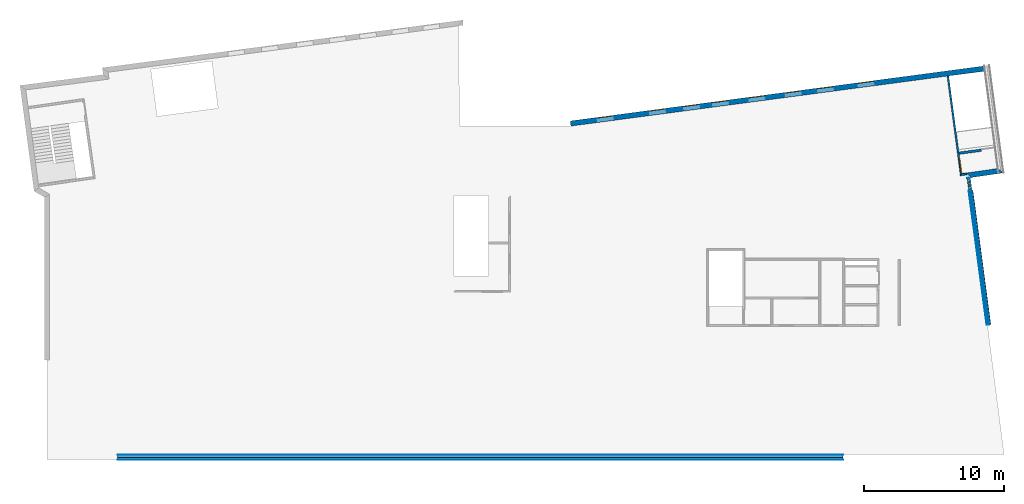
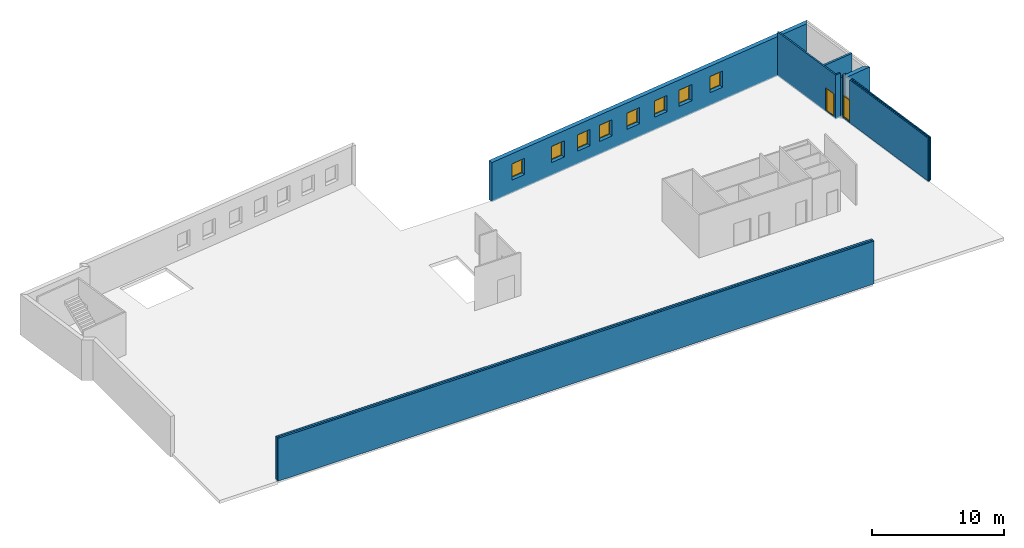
# One storey, part 5 of 9: 9 building element parts, 9 windows, 5 walls, 1 door, 12 openings, 2 elements without a shape of their own.
"""IFC2X3 building model written with IfcOpenShell, lengths in metres."""

from ifc_helpers import new_model, entity, si_unit, converted_unit, money_unit, direction, frame, origin_with_axes, origin_2d_with_axis, place, context, subcontext, project, spatial, polyline, rectangle, outline, extrude, clip, halfspace, faceted_brep, source, transform, mapped, material, material_list, layer, layer_set, layer_usage, type_object, element, fill, aggregate, save


model = new_model("IFC2X3")

# Units and contexts
model_context = context("Model", 3, precision=1e-05, world=origin_with_axes(), true_north=direction((0.0, 1.0)))
body_context = subcontext(model_context, "Body", "Model", "MODEL_VIEW")
ifc_project = project(units=[si_unit("LENGTHUNIT", "METRE"), si_unit("AREAUNIT", "SQUARE_METRE"), si_unit("VOLUMEUNIT", "CUBIC_METRE"), converted_unit("PLANEANGLEUNIT", "DEGREE", entity("IfcPlaneAngleMeasure", 0.0174532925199), si_unit("PLANEANGLEUNIT", "RADIAN"), dimensions=[0, 0, 0, 0, 0, 0, 0]), si_unit("SOLIDANGLEUNIT", "STERADIAN"), money_unit("EUR"), converted_unit("TIMEUNIT", "Year", entity("IfcTimeMeasure", 31556926.0), si_unit("TIMEUNIT", "SECOND"), dimensions=[0, 0, 0, 0, 0, 0, 0]), si_unit("MASSUNIT", "GRAM"), si_unit("THERMODYNAMICTEMPERATUREUNIT", "DEGREE_CELSIUS"), si_unit("LUMINOUSINTENSITYUNIT", "LUMEN")], contexts=[model_context])

# Site, building, storey
site_placement = place(None, origin_with_axes())
site = spatial("IfcSite", under=ifc_project, at=site_placement, Name="Undefined", CompositionType="ELEMENT")
building_placement = place(site_placement, origin_with_axes())
building = spatial("IfcBuilding", under=site, at=building_placement, Name="Undefined", CompositionType="ELEMENT")
storey_placement = place(building_placement, frame((0.0, 0.0, 13.45), z_axis=(0.0, 0.0, 1.0), x_axis=(1.0, 0.0, 0.0)))
storey = spatial("IfcBuildingStorey", under=building, at=storey_placement, Name="R+2", CompositionType="ELEMENT", Elevation=13.45)

# Wall
ifc_material_1 = material(Name="Finition int - Enduit pl\x89tre")
ifc_layer_1 = layer(ifc_material_1, 0.015, ventilated="UNKNOWN")
ifc_material_2 = material(Name="Struct. - Parpaing b\x8eton")
ifc_layer_2 = layer(ifc_material_2, 0.1, ventilated="UNKNOWN")
ifc_layer_3 = layer(ifc_material_1, 0.015, ventilated="UNKNOWN")
ifc_layer_set_1 = layer_set([ifc_layer_1, ifc_layer_2, ifc_layer_3], Name="0.0-Cloison: parpaing + pl\x89tre 2 faces copie")
ifc_layer_usage_1 = layer_usage(ifc_layer_set_1, "AXIS2", "POSITIVE", 0.0)
wall_type_1 = type_object("IfcWallType", Name="0.0-Cloison: parpaing + pl\x89tre 2 faces copie 130", PredefinedType="NOTDEFINED")
wall_1_placement = place(storey_placement, frame((65.689318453, 20.184397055, -0.120000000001), z_axis=(0.0, 0.0, 1.0), x_axis=(-0.990155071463, -0.139974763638, 0.0)))
element("IfcWallStandardCase", 1, at=wall_1_placement, inside=storey, type_object=wall_type_1, material=ifc_layer_usage_1, Name="Wall_Int_02", context=body_context, shape_type="SweptSolid", body=[
    extrude(outline(polyline([(0.0, 0.0), (0.332315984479, 0.0), (0.463315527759, 0.13), (0.0, 0.13), (0.0, 0.0)])), origin_with_axes(), (0.0, 0.0, 1.0), 4.07),
])

# Wall, opening, door
ifc_layer_usage_2 = layer_usage(ifc_layer_set_1, "AXIS2", "POSITIVE", 0.0)
wall_2_placement = place(storey_placement, frame((65.3602740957, 20.1378812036, -0.120000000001), z_axis=(0.0, 0.0, 1.0), x_axis=(-0.132386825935, 0.991198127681, 0.0)))
wall_2 = element("IfcWallStandardCase", 2, at=wall_2_placement, inside=storey, type_object=wall_type_1, material=ifc_layer_usage_2, Name="Wall_Int_02", context=body_context, shape_type="SweptSolid", body=[
    extrude(outline(polyline([(0.0, 0.0), (7.06627215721, 0.0), (7.06635857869, 0.13), (-0.13099954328, 0.13), (0.0, 0.0)])), origin_with_axes(), (0.0, 0.0, 1.0), 4.07),
])
opening_1_placement = place(wall_2_placement, frame((0.602413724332, 0.0, 0.12), z_axis=(0.0, 0.0, 1.0), x_axis=(1.0, 0.0, 0.0)))
opening_1 = element("IfcOpeningElement", 3, at=opening_1_placement, cuts=wall_2, Name="DOOR_1000", context=body_context, shape_type="SweptSolid", body=[
    extrude(rectangle(XDim=1.0, YDim=2.1, at=origin_2d_with_axis()), frame((0.0, -0.13, 1.05), z_axis=(0.0, 1.0, 0.0), x_axis=(1.0, 0.0, 0.0)), (0.0, 0.0, 1.0), 0.13),
    extrude(rectangle(XDim=1.0, YDim=2.1, at=origin_2d_with_axis()), frame((0.0, 0.13, 1.05), z_axis=(0.0, -1.0, 0.0), x_axis=(1.0, 0.0, 0.0)), (0.0, 0.0, 1.0), 0.13),
])
ifc_material_3 = material(Name="Background Fill-International")
ifc_material_4 = material(Name="Air Space")
ifc_material_list_1 = material_list([ifc_material_3, ifc_material_4])
door_style = type_object("IfcDoorStyle", Name="IFC Porte - Simple battant", ConstructionType="NOTDEFINED", OperationType="SINGLE_SWING_RIGHT", ParameterTakesPrecedence=True, Sizeable=False)
shared_shape_1 = source(origin_with_axes(), body_context, "Body", "Brep", [
    faceted_brep([(-0.5, 0.0, 0.0), (-0.45, 0.0, 0.0), (-0.45, -0.1, 0.0), (-0.5, -0.1, 0.0), (-0.5, 0.0, 2.1), (0.5, 0.0, 2.1), (0.5, 0.0, 0.0), (0.45, 0.0, 0.0), (0.45, 0.0, 2.05), (-0.45, 0.0, 2.05), (-0.45, -0.1, 2.05), (0.45, -0.1, 2.05), (0.45, -0.1, 0.0), (0.5, -0.1, 0.0), (0.5, -0.1, 2.1), (-0.5, -0.1, 2.1)], [[[0, 1, 2, 3]], [[0, 4, 5, 6, 7, 8, 9, 1]], [[1, 9, 10, 2]], [[3, 2, 10, 11, 12, 13, 14, 15]], [[4, 0, 3, 15]], [[5, 4, 15, 14]], [[6, 5, 14, 13]], [[7, 6, 13, 12]], [[8, 7, 12, 11]], [[9, 8, 11, 10]]]),
    faceted_brep([(0.45, 0.0, 0.0), (0.45, 0.0, 2.05), (0.45, -0.04, 2.05), (0.45, -0.04, 0.0), (-0.45, 0.0, 0.0), (-0.45, 0.0, 2.05), (-0.45, -0.04, 2.05), (-0.45, -0.04, 0.0)], [[[0, 1, 2, 3]], [[0, 4, 5, 1]], [[1, 5, 6, 2]], [[3, 2, 6, 7]], [[4, 0, 3, 7]], [[5, 4, 7, 6]]]),
])
door_placement = place(opening_1_placement, frame((0.5, 0.0, 0.0), z_axis=(0.0, 0.0, 1.0), x_axis=(-1.0, 0.0, 0.0)))
door = element("IfcDoor", 4, at=door_placement, inside=storey, type_object=door_style, material=ifc_material_list_1, Name="DOOR_1000", ObjectType="DOOR", OverallHeight=2.1, OverallWidth=1.0, context=body_context, shape_type="MappedRepresentation", body=[
    mapped(shared_shape_1, transform((0.5, 0.0, 0.0))),
])
fill(opening_1, door)

# Wall, openings, windows
ifc_material_5 = material(Name="Finition ext - Cr\x8epis")
ifc_layer_4 = layer(ifc_material_5, 0.015, ventilated="UNKNOWN")
ifc_material_6 = material(Name="Isolation - Fibres de bois")
ifc_layer_5 = layer(ifc_material_6, 0.16, ventilated="UNKNOWN")
ifc_material_7 = material(Name="Struct. - B.A. banch\x8e")
ifc_layer_6 = layer(ifc_material_7, 0.18, ventilated="UNKNOWN")
ifc_layer_7 = layer(ifc_material_1, 0.015, ventilated="UNKNOWN")
ifc_layer_set_2 = layer_set([ifc_layer_4, ifc_layer_5, ifc_layer_6, ifc_layer_7], Name="1.2-Mur ext: rev\x8et ext + isol ext + ma\x8donnerie + enduit")
ifc_layer_usage_3 = layer_usage(ifc_layer_set_2, "AXIS2", "POSITIVE", 0.0)
wall_type_2 = type_object("IfcWallType", Name="1.2-Mur ext: rev\x8et ext + isol ext + ma\x8donnerie + enduit 370", PredefinedType="NOTDEFINED")
wall_3_placement = place(storey_placement, frame((67.3302558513, 27.9013044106, -0.12), z_axis=(0.0, 0.0, 1.0), x_axis=(-0.991285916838, -0.131727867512, 0.0)))
wall_3 = element("IfcWallStandardCase", 5, at=wall_3_placement, inside=storey, type_object=wall_type_2, material=ifc_layer_usage_3, Name="WallEx02", ObjectType="WALL", context=body_context, shape_type="SweptSolid", body=[
    extrude(outline(polyline([(0.0, 0.0), (30.2929706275, 0.0), (30.2929706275, 0.37), (0.370166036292, 0.37), (0.0, 0.0)])), origin_with_axes(), (0.0, 0.0, 1.0), 3.63),
])
opening_2_placement = place(wall_3_placement, frame((27.7984641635, 0.0, 1.2), z_axis=(0.0, 0.0, 1.0), x_axis=(1.0, 0.0, 0.0)))
opening_2 = element("IfcOpeningElement", 6, at=opening_2_placement, cuts=wall_3, Name="Window_1200", context=body_context, shape_type="SweptSolid", body=[
    extrude(rectangle(XDim=1.2, YDim=1.5, at=origin_2d_with_axis()), frame((0.0, 0.37, 0.75), z_axis=(0.0, 1.0, 0.0), x_axis=(-1.0, 0.0, 0.0)), (0.0, 0.0, -1.0), 1.11),
])
opening_3_placement = place(wall_3_placement, frame((24.0211044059, 0.0, 1.2), z_axis=(0.0, 0.0, 1.0), x_axis=(1.0, 0.0, 0.0)))
opening_3 = element("IfcOpeningElement", 7, at=opening_3_placement, cuts=wall_3, Name="Window_1200", context=body_context, shape_type="SweptSolid", body=[
    extrude(rectangle(XDim=1.2, YDim=1.5, at=origin_2d_with_axis()), frame((0.0, 0.37, 0.75), z_axis=(0.0, 1.0, 0.0), x_axis=(-1.0, 0.0, 0.0)), (0.0, 0.0, -1.0), 1.11),
])
opening_4_placement = place(wall_3_placement, frame((21.5546740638, 0.0, 1.2), z_axis=(0.0, 0.0, 1.0), x_axis=(1.0, 0.0, 0.0)))
opening_4 = element("IfcOpeningElement", 8, at=opening_4_placement, cuts=wall_3, Name="Window_1200", context=body_context, shape_type="SweptSolid", body=[
    extrude(rectangle(XDim=1.2, YDim=1.5, at=origin_2d_with_axis()), frame((0.0, 0.37, 0.75), z_axis=(0.0, 1.0, 0.0), x_axis=(-1.0, 0.0, 0.0)), (0.0, 0.0, -1.0), 1.11),
])
opening_5_placement = place(wall_3_placement, frame((19.4637907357, 0.0, 1.2), z_axis=(0.0, 0.0, 1.0), x_axis=(1.0, 0.0, 0.0)))
opening_5 = element("IfcOpeningElement", 9, at=opening_5_placement, cuts=wall_3, Name="Window_1200", context=body_context, shape_type="SweptSolid", body=[
    extrude(rectangle(XDim=1.2, YDim=1.5, at=origin_2d_with_axis()), frame((0.0, 0.37, 0.75), z_axis=(0.0, 1.0, 0.0), x_axis=(-1.0, 0.0, 0.0)), (0.0, 0.0, -1.0), 1.11),
])
opening_6_placement = place(wall_3_placement, frame((16.8379134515, 0.0, 1.2), z_axis=(0.0, 0.0, 1.0), x_axis=(1.0, 0.0, 0.0)))
opening_6 = element("IfcOpeningElement", 10, at=opening_6_placement, cuts=wall_3, Name="Window_1200", context=body_context, shape_type="SweptSolid", body=[
    extrude(rectangle(XDim=1.2, YDim=1.5, at=origin_2d_with_axis()), frame((0.0, 0.37, 0.75), z_axis=(0.0, 1.0, 0.0), x_axis=(-1.0, 0.0, 0.0)), (0.0, 0.0, -1.0), 1.11),
])
opening_7_placement = place(wall_3_placement, frame((14.2120361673, 0.0, 1.2), z_axis=(0.0, 0.0, 1.0), x_axis=(1.0, 0.0, 0.0)))
opening_7 = element("IfcOpeningElement", 11, at=opening_7_placement, cuts=wall_3, Name="Window_1200", context=body_context, shape_type="SweptSolid", body=[
    extrude(rectangle(XDim=1.2, YDim=1.5, at=origin_2d_with_axis()), frame((0.0, 0.37, 0.75), z_axis=(0.0, 1.0, 0.0), x_axis=(-1.0, 0.0, 0.0)), (0.0, 0.0, -1.0), 1.11),
])
opening_8_placement = place(wall_3_placement, frame((11.8722940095, 0.0, 1.2), z_axis=(0.0, 0.0, 1.0), x_axis=(1.0, 0.0, 0.0)))
opening_8 = element("IfcOpeningElement", 12, at=opening_8_placement, cuts=wall_3, Name="Window_1200", context=body_context, shape_type="SweptSolid", body=[
    extrude(rectangle(XDim=1.2, YDim=1.5, at=origin_2d_with_axis()), frame((0.0, 0.37, 0.75), z_axis=(0.0, 1.0, 0.0), x_axis=(-1.0, 0.0, 0.0)), (0.0, 0.0, -1.0), 1.11),
])
opening_9_placement = place(wall_3_placement, frame((8.94888426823, 0.0, 1.2), z_axis=(0.0, 0.0, 1.0), x_axis=(1.0, 0.0, 0.0)))
opening_9 = element("IfcOpeningElement", 13, at=opening_9_placement, cuts=wall_3, Name="Window_1200", context=body_context, shape_type="SweptSolid", body=[
    extrude(rectangle(XDim=1.2, YDim=1.5, at=origin_2d_with_axis()), frame((0.0, 0.37, 0.75), z_axis=(0.0, 1.0, 0.0), x_axis=(-1.0, 0.0, 0.0)), (0.0, 0.0, -1.0), 1.11),
])
ifc_material_8 = material(Name="07 | Insulation Rigid")
ifc_material_list_2 = material_list([ifc_material_3, ifc_material_4, ifc_material_3, ifc_material_3, ifc_material_3, ifc_material_8, ifc_material_3, ifc_material_3, ifc_material_3, ifc_material_3, ifc_material_4, ifc_material_3, ifc_material_3])
window_style_1 = type_object("IfcWindowStyle", Name="Fen\x90tre 18", ConstructionType="NOTDEFINED", OperationType="DOUBLE_PANEL_HORIZONTAL", ParameterTakesPrecedence=False, Sizeable=False)
shared_shape_2 = source(origin_with_axes(), body_context, "Body", "Brep", [
    faceted_brep([(0.55, -0.05, 1.1), (0.55, -0.05, 1.2), (0.55, 0.0, 1.2), (0.55, 0.0, 1.1), (0.55, -0.05, 0.05), (0.6, -0.05, 0.0), (0.6, -0.05, 1.5), (0.55, -0.05, 1.45), (0.55, 0.0, 1.45), (0.6, 0.0, 1.5), (0.6, 0.0, 0.0), (0.55, 0.0, 0.05)], [[[0, 1, 2, 3]], [[0, 4, 5, 6, 7, 1]], [[1, 7, 8, 2]], [[3, 2, 8, 9, 10, 11]], [[4, 0, 3, 11]], [[5, 4, 11, 10]], [[6, 5, 10, 9]], [[7, 6, 9, 8]]]),
    faceted_brep([(-0.55, -0.05, 0.05), (-0.6, -0.05, 0.0), (-0.6, 0.0, 0.0), (-0.55, 0.0, 0.05), (-0.55, -0.05, 1.1), (-0.55, -0.05, 1.2), (-0.55, -0.05, 1.45), (-0.6, -0.05, 1.5), (-0.6, 0.0, 1.5), (-0.55, 0.0, 1.45), (-0.55, 0.0, 1.2), (-0.55, 0.0, 1.1)], [[[0, 1, 2, 3]], [[0, 4, 5, 6, 7, 1]], [[1, 7, 8, 2]], [[3, 2, 8, 9, 10, 11]], [[4, 0, 3, 11]], [[5, 4, 11, 10]], [[6, 5, 10, 9]], [[7, 6, 9, 8]]]),
    faceted_brep([(0.55, -0.05, 1.2), (0.55, -0.05, 1.1), (0.55, 0.0, 1.1), (0.55, 0.0, 1.2), (-0.55, -0.05, 1.2), (-0.55, -0.05, 1.1), (-0.55, 0.0, 1.1), (-0.55, 0.0, 1.2)], [[[0, 1, 2, 3]], [[0, 4, 5, 1]], [[1, 5, 6, 2]], [[3, 2, 6, 7]], [[4, 0, 3, 7]], [[5, 4, 7, 6]]]),
    faceted_brep([(0.55, -0.05, 0.05), (0.6, -0.05, 0.0), (0.6, 0.0, 0.0), (0.55, 0.0, 0.05), (-0.55, -0.05, 0.05), (-0.6, -0.05, 0.0), (-0.6, 0.0, 0.0), (-0.55, 0.0, 0.05)], [[[0, 1, 2, 3]], [[0, 4, 5, 1]], [[1, 5, 6, 2]], [[3, 2, 6, 7]], [[4, 0, 3, 7]], [[5, 4, 7, 6]]]),
    faceted_brep([(-0.55, -0.05, 1.45), (-0.6, -0.05, 1.5), (-0.6, 0.0, 1.5), (-0.55, 0.0, 1.45), (0.55, -0.05, 1.45), (0.6, -0.05, 1.5), (0.6, 0.0, 1.5), (0.55, 0.0, 1.45)], [[[0, 1, 2, 3]], [[0, 4, 5, 1]], [[1, 5, 6, 2]], [[3, 2, 6, 7]], [[4, 0, 3, 7]], [[5, 4, 7, 6]]]),
    faceted_brep([(0.55, -0.035, 1.2), (-0.55, -0.035, 1.2), (-0.55, -0.015, 1.2), (0.55, -0.015, 1.2), (0.55, -0.035, 1.45), (-0.55, -0.035, 1.45), (-0.55, -0.015, 1.45), (0.55, -0.015, 1.45)], [[[0, 1, 2, 3]], [[0, 4, 5, 1]], [[1, 5, 6, 2]], [[3, 2, 6, 7]], [[4, 0, 3, 7]], [[5, 4, 7, 6]]]),
    faceted_brep([(0.55, -0.035, 0.05), (-0.55, -0.035, 0.05), (-0.55, -0.015, 0.05), (0.55, -0.015, 0.05), (0.55, -0.035, 1.1), (-0.55, -0.035, 1.1), (-0.55, -0.015, 1.1), (0.55, -0.015, 1.1)], [[[0, 1, 2, 3]], [[0, 4, 5, 1]], [[1, 5, 6, 2]], [[3, 2, 6, 7]], [[4, 0, 3, 7]], [[5, 4, 7, 6]]]),
])
window_1_placement = place(opening_2_placement, frame((-0.6, 0.0, 0.0), z_axis=(0.0, 0.0, 1.0), x_axis=(1.0, 0.0, 0.0)))
window_1 = element("IfcWindow", 14, at=window_1_placement, inside=storey, type_object=window_style_1, material=ifc_material_list_2, Name="Window_1200", ObjectType="WINDOW", OverallHeight=1.5, OverallWidth=1.2, context=body_context, shape_type="MappedRepresentation", body=[
    mapped(shared_shape_2, transform((0.6, 0.05, 0.0))),
])
fill(opening_2, window_1)
window_2_placement = place(opening_3_placement, frame((-0.6, 0.0, 0.0), z_axis=(0.0, 0.0, 1.0), x_axis=(1.0, 0.0, 0.0)))
window_2 = element("IfcWindow", 15, at=window_2_placement, inside=storey, type_object=window_style_1, material=ifc_material_list_2, Name="Window_1200", ObjectType="WINDOW", OverallHeight=1.5, OverallWidth=1.2, context=body_context, shape_type="MappedRepresentation", body=[
    mapped(shared_shape_2, transform((0.6, 0.05, 0.0))),
])
fill(opening_3, window_2)
window_3_placement = place(opening_4_placement, frame((-0.6, 0.0, 0.0), z_axis=(0.0, 0.0, 1.0), x_axis=(1.0, 0.0, 0.0)))
window_3 = element("IfcWindow", 16, at=window_3_placement, inside=storey, type_object=window_style_1, material=ifc_material_list_2, Name="Window_1200", ObjectType="WINDOW", OverallHeight=1.5, OverallWidth=1.2, context=body_context, shape_type="MappedRepresentation", body=[
    mapped(shared_shape_2, transform((0.6, 0.05, 0.0))),
])
fill(opening_4, window_3)
window_4_placement = place(opening_5_placement, frame((-0.6, 0.0, 0.0), z_axis=(0.0, 0.0, 1.0), x_axis=(1.0, 0.0, 0.0)))
window_4 = element("IfcWindow", 17, at=window_4_placement, inside=storey, type_object=window_style_1, material=ifc_material_list_2, Name="Window_1200", ObjectType="WINDOW", OverallHeight=1.5, OverallWidth=1.2, context=body_context, shape_type="MappedRepresentation", body=[
    mapped(shared_shape_2, transform((0.6, 0.05, 0.0))),
])
fill(opening_5, window_4)
window_5_placement = place(opening_6_placement, frame((-0.6, 0.0, 0.0), z_axis=(0.0, 0.0, 1.0), x_axis=(1.0, 0.0, 0.0)))
window_5 = element("IfcWindow", 18, at=window_5_placement, inside=storey, type_object=window_style_1, material=ifc_material_list_2, Name="Window_1200", ObjectType="WINDOW", OverallHeight=1.5, OverallWidth=1.2, context=body_context, shape_type="MappedRepresentation", body=[
    mapped(shared_shape_2, transform((0.6, 0.05, 0.0))),
])
fill(opening_6, window_5)
window_6_placement = place(opening_7_placement, frame((-0.6, 0.0, 0.0), z_axis=(0.0, 0.0, 1.0), x_axis=(1.0, 0.0, 0.0)))
window_6 = element("IfcWindow", 19, at=window_6_placement, inside=storey, type_object=window_style_1, material=ifc_material_list_2, Name="Window_1200", ObjectType="WINDOW", OverallHeight=1.5, OverallWidth=1.2, context=body_context, shape_type="MappedRepresentation", body=[
    mapped(shared_shape_2, transform((0.6, 0.05, 0.0))),
])
fill(opening_7, window_6)
window_7_placement = place(opening_8_placement, frame((-0.6, 0.0, 0.0), z_axis=(0.0, 0.0, 1.0), x_axis=(1.0, 0.0, 0.0)))
window_7 = element("IfcWindow", 20, at=window_7_placement, inside=storey, type_object=window_style_1, material=ifc_material_list_2, Name="Window_1200", ObjectType="WINDOW", OverallHeight=1.5, OverallWidth=1.2, context=body_context, shape_type="MappedRepresentation", body=[
    mapped(shared_shape_2, transform((0.6, 0.05, 0.0))),
])
fill(opening_8, window_7)
window_8_placement = place(opening_9_placement, frame((-0.6, 0.0, 0.0), z_axis=(0.0, 0.0, 1.0), x_axis=(1.0, 0.0, 0.0)))
window_8 = element("IfcWindow", 21, at=window_8_placement, inside=storey, type_object=window_style_1, material=ifc_material_list_2, Name="Window_1200", ObjectType="WINDOW", OverallHeight=1.5, OverallWidth=1.2, context=body_context, shape_type="MappedRepresentation", body=[
    mapped(shared_shape_2, transform((0.6, 0.05, 0.0))),
])
fill(opening_9, window_8)

# Wall
ifc_layer_usage_4 = layer_usage(ifc_layer_set_2, "AXIS2", "POSITIVE", 0.0)
wall_4_placement = place(storey_placement, frame((66.0224440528, 19.8578230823, -0.3), z_axis=(0.0, 0.0, 1.0), x_axis=(0.989654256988, 0.143472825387, 0.0)))
element("IfcWallStandardCase", 22, at=wall_4_placement, inside=storey, type_object=wall_type_2, material=ifc_layer_usage_4, Name="SW - 013", ObjectType="WALL", context=body_context, shape_type="Clipping", body=[
    clip(extrude(outline(polyline([(0.0, 0.0), (2.352644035, 0.0), (1.98716963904, 0.37), (-0.282828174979, 0.37), (0.0, 0.0)])), origin_with_axes(), (0.0, 0.0, 1.0), 3.81), halfspace(frame((-0.50618995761, 0.00573238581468, 5.7861486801), z_axis=(0.0871501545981, -0.000986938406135, -0.996194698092), x_axis=(0.0, 0.999999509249, -0.000990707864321)), True)),
])

# Window
ifc_material_9 = material(Name="Background")
ifc_material_10 = material(Name="Rigid Insulation")
ifc_material_list_3 = material_list([ifc_material_9, ifc_material_4, ifc_material_9, ifc_material_9, ifc_material_9, ifc_material_10, ifc_material_9, ifc_material_9, ifc_material_9, ifc_material_9, ifc_material_4, ifc_material_9, ifc_material_9])
window_style_2 = type_object("IfcWindowStyle", Name="Fen\x90tre 18", ConstructionType="NOTDEFINED", OperationType="SINGLE_PANEL", ParameterTakesPrecedence=False, Sizeable=False)
shared_shape_3 = source(origin_with_axes(), body_context, "Body", "Brep", [
    faceted_brep([(0.425, 0.0, 1.975), (0.425, -0.025, 1.975), (0.4, -0.025, 1.95), (0.4, -0.05, 1.95), (0.45, -0.05, 2.0), (0.45, 0.0, 2.0), (0.425, 0.0, 0.025), (0.425, -0.025, 0.025), (0.4, -0.025, 0.05), (0.4, -0.05, 0.05), (0.45, -0.05, 0.0), (0.45, 0.0, 0.0)], [[[0, 1, 2, 3, 4, 5]], [[0, 6, 7, 1]], [[8, 2, 1, 7]], [[2, 8, 9, 3]], [[3, 9, 10, 4]], [[4, 10, 11, 5]], [[6, 0, 5, 11]], [[7, 6, 11, 10, 9, 8]]]),
    faceted_brep([(-0.4, -0.025, 1.95), (-0.425, -0.025, 1.975), (-0.425, 0.0, 1.975), (-0.45, 0.0, 2.0), (-0.45, -0.05, 2.0), (-0.4, -0.05, 1.95), (-0.4, -0.025, 0.05), (-0.425, -0.025, 0.025), (-0.425, 0.0, 0.025), (-0.45, 0.0, 0.0), (-0.45, -0.05, 0.0), (-0.4, -0.05, 0.05)], [[[0, 1, 2, 3, 4, 5]], [[1, 0, 6, 7]], [[8, 2, 1, 7]], [[2, 8, 9, 3]], [[10, 4, 3, 9]], [[11, 5, 4, 10]], [[6, 0, 5, 11]], [[7, 6, 11, 10, 9, 8]]]),
    faceted_brep([(-0.4, -0.025, 0.05), (-0.425, -0.025, 0.025), (-0.425, 0.0, 0.025), (-0.45, 0.0, 0.0), (-0.45, -0.05, 0.0), (-0.4, -0.05, 0.05), (0.4, -0.025, 0.05), (0.425, -0.025, 0.025), (0.425, 0.0, 0.025), (0.45, 0.0, 0.0), (0.45, -0.05, 0.0), (0.4, -0.05, 0.05)], [[[0, 1, 2, 3, 4, 5]], [[1, 0, 6, 7]], [[8, 2, 1, 7]], [[2, 8, 9, 3]], [[10, 4, 3, 9]], [[11, 5, 4, 10]], [[6, 0, 5, 11]], [[7, 6, 11, 10, 9, 8]]]),
    faceted_brep([(0.425, 0.0, 1.975), (-0.425, 0.0, 1.975), (-0.45, 0.0, 2.0), (0.45, 0.0, 2.0), (0.425, -0.025, 1.975), (-0.425, -0.025, 1.975), (-0.4, -0.025, 1.95), (-0.4, -0.05, 1.95), (-0.45, -0.05, 2.0), (0.45, -0.05, 2.0), (0.4, -0.05, 1.95), (0.4, -0.025, 1.95)], [[[0, 1, 2, 3]], [[1, 0, 4, 5]], [[5, 6, 7, 8, 2, 1]], [[8, 9, 3, 2]], [[4, 0, 3, 9, 10, 11]], [[6, 5, 4, 11]], [[6, 11, 10, 7]], [[7, 10, 9, 8]]]),
    faceted_brep([(0.375, -0.025, 1.925), (0.425, -0.025, 1.975), (0.425, 0.025, 1.975), (0.375, 0.025, 1.925), (0.375, -0.025, 0.075), (0.425, -0.025, 0.025), (0.425, 0.025, 0.025), (0.375, 0.025, 0.075)], [[[0, 1, 2, 3]], [[0, 4, 5, 1]], [[1, 5, 6, 2]], [[3, 2, 6, 7]], [[4, 0, 3, 7]], [[5, 4, 7, 6]]]),
    faceted_brep([(-0.375, -0.025, 0.075), (-0.425, -0.025, 0.025), (-0.425, 0.025, 0.025), (-0.375, 0.025, 0.075), (-0.375, -0.025, 1.925), (-0.425, -0.025, 1.975), (-0.425, 0.025, 1.975), (-0.375, 0.025, 1.925)], [[[0, 1, 2, 3]], [[0, 4, 5, 1]], [[1, 5, 6, 2]], [[3, 2, 6, 7]], [[4, 0, 3, 7]], [[5, 4, 7, 6]]]),
    faceted_brep([(-0.425, -0.025, 0.025), (-0.375, -0.025, 0.075), (-0.375, 0.025, 0.075), (-0.425, 0.025, 0.025), (0.425, -0.025, 0.025), (0.375, -0.025, 0.075), (0.375, 0.025, 0.075), (0.425, 0.025, 0.025)], [[[0, 1, 2, 3]], [[0, 4, 5, 1]], [[1, 5, 6, 2]], [[3, 2, 6, 7]], [[4, 0, 3, 7]], [[5, 4, 7, 6]]]),
    faceted_brep([(0.425, -0.025, 1.975), (0.375, -0.025, 1.925), (0.375, 0.025, 1.925), (0.425, 0.025, 1.975), (-0.425, -0.025, 1.975), (-0.375, -0.025, 1.925), (-0.375, 0.025, 1.925), (-0.425, 0.025, 1.975)], [[[0, 1, 2, 3]], [[0, 4, 5, 1]], [[1, 5, 6, 2]], [[3, 2, 6, 7]], [[4, 0, 3, 7]], [[5, 4, 7, 6]]]),
    faceted_brep([(0.375, -0.01, 0.075), (-0.375, -0.01, 0.075), (-0.375, 0.01, 0.075), (0.375, 0.01, 0.075), (0.375, -0.01, 1.925), (-0.375, -0.01, 1.925), (-0.375, 0.01, 1.925), (0.375, 0.01, 1.925)], [[[0, 1, 2, 3]], [[0, 4, 5, 1]], [[1, 5, 6, 2]], [[3, 2, 6, 7]], [[4, 0, 3, 7]], [[5, 4, 7, 6]]]),
])
wall_7_placement = place(storey_placement, frame((67.426098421, 9.33793716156, 0.0), z_axis=(0.0, 0.0, 1.0), x_axis=(-0.132256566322, 0.991215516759, 0.0)))
opening_11_placement = place(wall_7_placement, frame((10.1610210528, 0.0, 0.0), z_axis=(0.0, 0.0, 1.0), x_axis=(1.0, 0.0, 0.0)))
window_9_placement = place(opening_11_placement, frame((-0.45, 0.0, 0.0), z_axis=(0.0, 0.0, 1.0), x_axis=(1.0, 0.0, 0.0)))
window_9 = element("IfcWindow", 23, at=window_9_placement, inside=storey, type_object=window_style_2, material=ifc_material_list_3, Name="WD - 004", OverallHeight=2.0, OverallWidth=0.9, context=body_context, shape_type="MappedRepresentation", body=[
    mapped(shared_shape_3, transform((0.45, 0.17, 0.0))),
])

# Wall, opening
ifc_layer_8 = layer(ifc_material_1, 0.015, ventilated="UNKNOWN")
ifc_layer_9 = layer(ifc_material_2, 0.15, ventilated="UNKNOWN")
ifc_layer_10 = layer(ifc_material_1, 0.015, ventilated="UNKNOWN")
ifc_layer_set_3 = layer_set([ifc_layer_8, ifc_layer_9, ifc_layer_10], Name="0.0-Mur b\x8eton enduit platre x2")
ifc_layer_usage_5 = layer_usage(ifc_layer_set_3, "AXIS2", "POSITIVE", 0.0)
wall_type_3 = type_object("IfcWallType", Name="0.0-Mur b\x8eton enduit platre x2 180", PredefinedType="NOTDEFINED")
wall_5_placement = place(storey_placement, frame((65.1767239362, 21.5120958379, -0.12), z_axis=(0.0, 0.0, 1.0), x_axis=(0.99119748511, 0.132391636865, 0.0)))
wall_5 = element("IfcWallStandardCase", 24, at=wall_5_placement, inside=storey, type_object=wall_type_3, material=ifc_layer_usage_5, Name="Wall_Int_02", context=body_context, shape_type="SweptSolid", body=[
    extrude(outline(polyline([(6.66082976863e-06, 0.0), (2.60368976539, 0.0), (2.60389105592, 0.18), (7.53448713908e-06, 0.18), (6.66082976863e-06, 0.0)])), origin_with_axes(), (0.0, 0.0, 1.0), 4.07),
])
opening_10_placement = place(wall_5_placement, frame((2.10368813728, 0.0, 0.0), z_axis=(0.0, 0.0, 1.0), x_axis=(1.0, 0.0, 0.0)))
element("IfcOpeningElement", 25, at=opening_10_placement, cuts=wall_5, Name="DOOR_1000", context=body_context, shape_type="SweptSolid", body=[
    extrude(rectangle(XDim=1.0, YDim=2.1, at=origin_2d_with_axis()), frame((0.0, 0.36, 1.05), z_axis=(0.0, -1.0, 0.0), x_axis=(1.0, 0.0, 0.0)), (0.0, 0.0, 1.0), 0.18),
    extrude(rectangle(XDim=1.0, YDim=2.1, at=origin_2d_with_axis()), frame((0.0, 0.0, 1.05), z_axis=(0.0, 1.0, 0.0), x_axis=(1.0, 0.0, 0.0)), (0.0, 0.0, 1.0), 0.18),
])

# Wall, building element parts
wall_type_4 = type_object("IfcWallType", Name="Profil personnalis\x8e 370 x 4070", PredefinedType="NOTDEFINED")
wall_6_placement = place(storey_placement, frame((4.87499999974, -0.370000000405, 0.0), z_axis=(0.0, 0.0, 1.0), x_axis=(1.0, 0.0, 0.0)))
wall_6 = element("IfcWall", 26, at=wall_6_placement, inside=storey, type_object=wall_type_4, Name="SW - 010", ObjectType="WALL")
building_element_part_1_placement = place(wall_6_placement, origin_with_axes())
building_element_part_1 = element("IfcBuildingElementPart", 27, at=building_element_part_1_placement, material=ifc_material_5, context=body_context, shape_type="SweptSolid", body=[
    extrude(outline(polyline([(-0.015, 0.0), (0.0, 0.0), (0.0, 3.95), (-0.015, 3.95), (-0.015, 0.0)])), frame((0.0, 0.0, 0.0), z_axis=(-1.0, 0.0, 0.0), x_axis=(0.0, -1.0, 0.0)), (0.0, 0.0, -1.0), 51.975),
])
building_element_part_2_placement = place(wall_6_placement, origin_with_axes())
building_element_part_2 = element("IfcBuildingElementPart", 28, at=building_element_part_2_placement, material=ifc_material_6, context=body_context, shape_type="SweptSolid", body=[
    extrude(outline(polyline([(-0.175, 0.0), (-0.015, 0.0), (-0.015, 3.95), (-0.175, 3.95), (-0.175, 0.0)])), frame((0.0, 0.0, 0.0), z_axis=(-1.0, 0.0, 0.0), x_axis=(0.0, -1.0, 0.0)), (0.0, 0.0, -1.0), 51.975),
])
building_element_part_3_placement = place(wall_6_placement, origin_with_axes())
building_element_part_3 = element("IfcBuildingElementPart", 29, at=building_element_part_3_placement, material=ifc_material_7, context=body_context, shape_type="SweptSolid", body=[
    extrude(outline(polyline([(-0.355, -0.12), (-0.175, -0.12), (-0.175, 3.95), (-0.355, 3.95), (-0.355, -0.12)])), frame((0.0, 0.0, 0.0), z_axis=(-1.0, 0.0, 0.0), x_axis=(0.0, -1.0, 0.0)), (0.0, 0.0, -1.0), 51.975),
])
building_element_part_4_placement = place(wall_6_placement, origin_with_axes())
building_element_part_4 = element("IfcBuildingElementPart", 30, at=building_element_part_4_placement, material=ifc_material_1, context=body_context, shape_type="SweptSolid", body=[
    extrude(outline(polyline([(-0.37, 0.0), (-0.355, 0.0), (-0.355, 3.95), (-0.37, 3.95), (-0.37, 0.0)])), frame((0.0, 0.0, 0.0), z_axis=(-1.0, 0.0, 0.0), x_axis=(0.0, -1.0, 0.0)), (0.0, 0.0, -1.0), 51.975),
])
aggregate(wall_6, [building_element_part_1, building_element_part_2, building_element_part_3, building_element_part_4])

# Wall, opening
wall_type_5 = type_object("IfcWallType", Name="Panneau 2eme 287 x 4070", PredefinedType="NOTDEFINED")
wall_7 = element("IfcWall", 31, at=wall_7_placement, inside=storey, type_object=wall_type_5, Name="SW - 012", ObjectType="WALL")
opening_11 = element("IfcOpeningElement", 32, at=opening_11_placement, cuts=wall_7, Name="WD - 004", context=body_context, shape_type="SweptSolid", body=[
    extrude(rectangle(XDim=0.9, YDim=2.0, at=origin_2d_with_axis()), frame((0.0, 0.574, 1.0), z_axis=(0.0, 1.0, 0.0), x_axis=(-1.0, 0.0, 0.0)), (0.0, 0.0, -1.0), 0.454),
    extrude(rectangle(XDim=0.9, YDim=2.0, at=origin_2d_with_axis()), frame((0.0, -0.287, 1.0), z_axis=(0.0, -1.0, 0.0), x_axis=(-1.0, 0.0, 0.0)), (0.0, 0.0, -1.0), 0.407),
])

fill(opening_11, window_9)

# Opening
opening_12_placement = place(wall_7_placement, frame((10.1610210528, 0.0, 2.0), z_axis=(0.0, 0.0, 1.0), x_axis=(1.0, 0.0, 0.0)))
element("IfcOpeningElement", 33, at=opening_12_placement, cuts=wall_7, Name="WD - 004", context=body_context, shape_type="SweptSolid", body=[
    extrude(rectangle(XDim=0.9, YDim=1.95, at=origin_2d_with_axis()), frame((0.0, 0.574, 0.975), z_axis=(0.0, 1.0, 0.0), x_axis=(-1.0, 0.0, 0.0)), (0.0, 0.0, -1.0), 0.454),
    extrude(rectangle(XDim=0.9, YDim=1.95, at=origin_2d_with_axis()), frame((0.0, -0.287, 0.975), z_axis=(0.0, -1.0, 0.0), x_axis=(-1.0, 0.0, 0.0)), (0.0, 0.0, -1.0), 0.407),
])

# Building element part
building_element_part_5_placement = place(wall_7_placement, origin_with_axes())
building_element_part_5 = element("IfcBuildingElementPart", 34, at=building_element_part_5_placement, material=ifc_material_1, context=body_context, shape_type="SweptSolid", body=[
    extrude(outline(polyline([(-0.1, 0.0), (0.0, 0.0), (0.0, 3.95), (-0.1, 3.95), (-0.1, 0.0)])), frame((0.0, 0.0, 0.0), z_axis=(-1.0, 0.0, 0.0), x_axis=(0.0, -1.0, 0.0)), (0.0, 0.0, -1.0), 10.6131166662),
])

ifc_material_11 = material(Name="Lame d'air")
building_element_part_6_placement = place(wall_7_placement, origin_with_axes())
building_element_part_6 = element("IfcBuildingElementPart", 35, at=building_element_part_6_placement, material=ifc_material_11, context=body_context, shape_type="SweptSolid", body=[
    extrude(outline(polyline([(-0.15, -0.03), (-0.1, -0.03), (-0.1, 3.95), (-0.15, 3.95), (-0.15, -0.03)])), frame((0.0, 0.0, 0.0), z_axis=(-1.0, 0.0, 0.0), x_axis=(0.0, -1.0, 0.0)), (0.0, 0.0, -1.0), 10.6131166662),
])

ifc_material_12 = material(Name="Isolation - Laine de verre")
building_element_part_7_placement = place(wall_7_placement, origin_with_axes())
building_element_part_7 = element("IfcBuildingElementPart", 36, at=building_element_part_7_placement, material=ifc_material_12, context=body_context, shape_type="SweptSolid", body=[
    extrude(outline(polyline([(-0.175, -0.03), (-0.15, -0.03), (-0.15, 3.95), (-0.175, 3.95), (-0.175, -0.03)])), frame((0.0, 0.0, 0.0), z_axis=(-1.0, 0.0, 0.0), x_axis=(0.0, -1.0, 0.0)), (0.0, 0.0, -1.0), 10.6131166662),
])

building_element_part_8_placement = place(wall_7_placement, origin_with_axes())
building_element_part_8 = element("IfcBuildingElementPart", 37, at=building_element_part_8_placement, material=ifc_material_7, context=body_context, shape_type="SweptSolid", body=[
    extrude(outline(polyline([(-0.275, -0.12), (-0.175, -0.12), (-0.175, 3.95), (-0.275, 3.95), (-0.275, -0.12)])), frame((0.0, 0.0, 0.0), z_axis=(-1.0, 0.0, 0.0), x_axis=(0.0, -1.0, 0.0)), (0.0, 0.0, -1.0), 10.6131166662),
])

ifc_material_13 = material(Name="Finition int - Enduit min\x8eral")
building_element_part_9_placement = place(wall_7_placement, origin_with_axes())
building_element_part_9 = element("IfcBuildingElementPart", 38, at=building_element_part_9_placement, material=ifc_material_13, context=body_context, shape_type="SweptSolid", body=[
    extrude(outline(polyline([(-0.287, 0.0), (-0.275, 0.0), (-0.275, 3.95), (-0.287, 3.95), (-0.287, 0.0)])), frame((0.0, 0.0, 0.0), z_axis=(-1.0, 0.0, 0.0), x_axis=(0.0, -1.0, 0.0)), (0.0, 0.0, -1.0), 10.6131166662),
])

aggregate(wall_7, [building_element_part_5, building_element_part_6, building_element_part_7, building_element_part_8, building_element_part_9])

save(model, "model.ifc")
